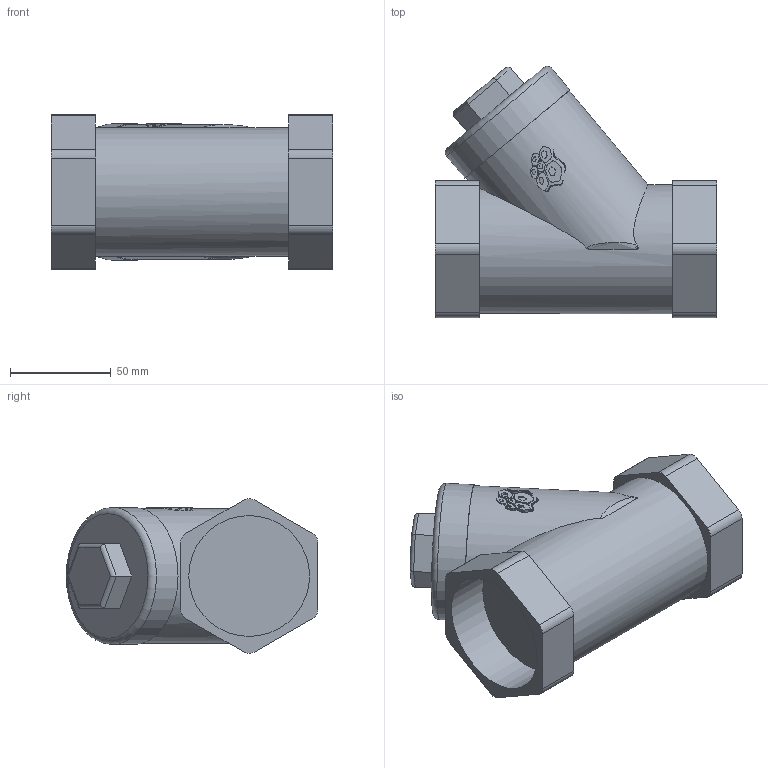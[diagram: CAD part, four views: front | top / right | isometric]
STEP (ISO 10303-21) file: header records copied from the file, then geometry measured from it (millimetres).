
FILE_DESCRIPTION(('STEP AP203'), '1');
FILE_NAME('3D_6460-050-40', '', ('UNSPECIFIED'), ('UNSPECIFIED'), 'C3D Converter', 'C3D Toolkit', '');
FILE_SCHEMA(('CONFIG_CONTROL_DESIGN'));
Length unit declared in the file: millimetre
Bounding box: 140 x 124.77 x 76.97 mm (x, y, z)
Volume: 572772 mm3; surface area: 60121.3 mm2
Topology: 1 solids, 1 shells, 884 faces, 2589 edges, 1725 vertices
Faces by surface type: plane 848, cylinder 29, bspline 5, torus 2
Full cylindrical faces by diameter (mm): 60 x2, 64 x1, 67 x1, 68 x1
Entity records: 37982 total; most frequent: CARTESIAN_POINT 9735, ORIENTED_EDGE 5164, DIRECTION 3564, EDGE_CURVE 2582, VERTEX_POINT 1725, LINE 1724, VECTOR 1724, AXIS2_PLACEMENT_3D 920
